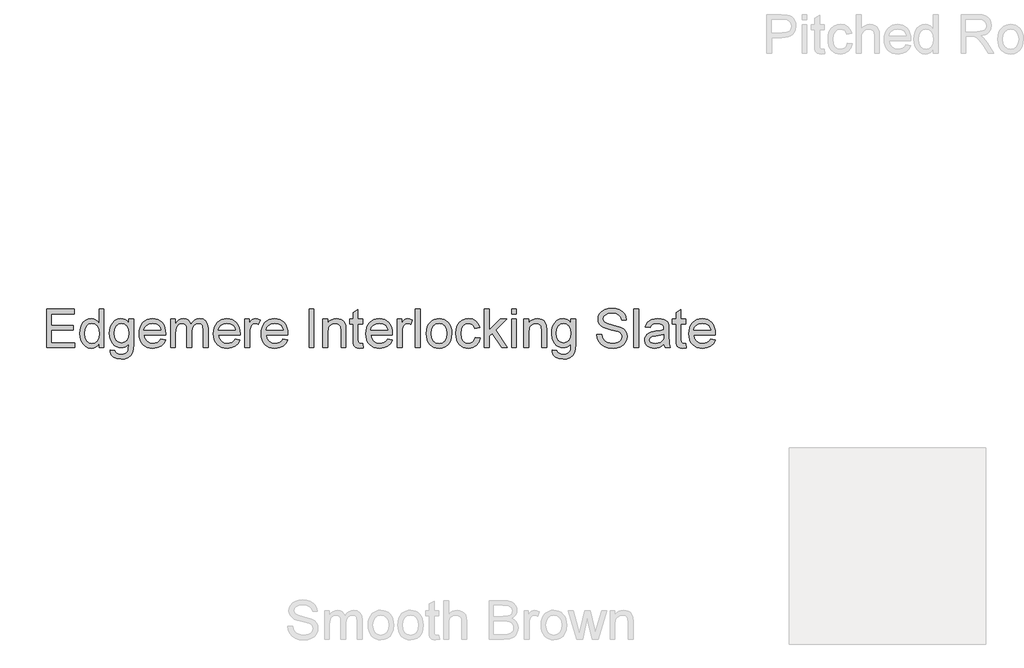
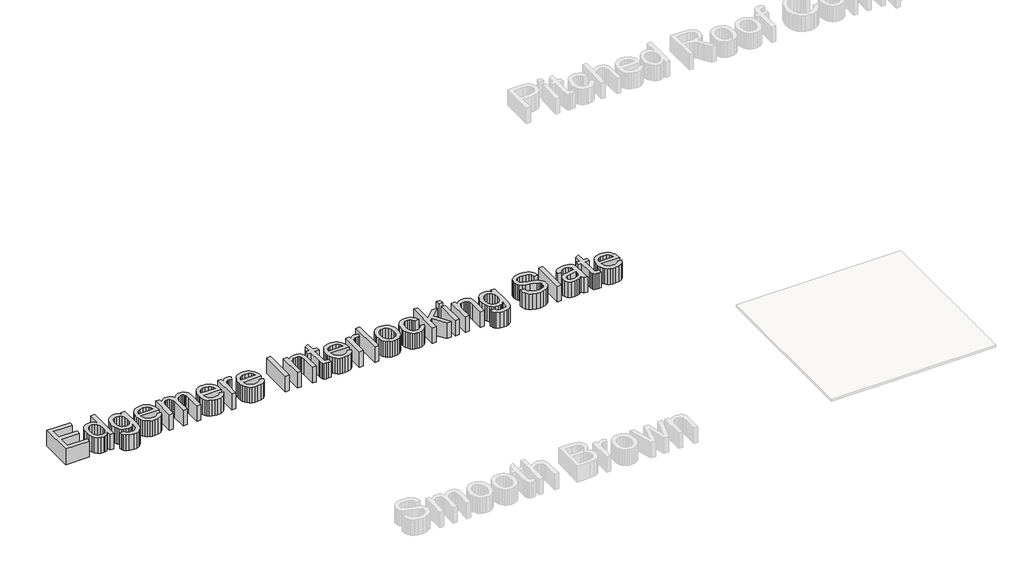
# One storey, part 3 of 8: 1 proxy.
"""IFC4 building model written with IfcOpenShell, lengths in millimetres."""

from ifc_helpers import new_model, si_unit, frame, origin, place, context, project, spatial, polyline, outline, extrude, element, save

model = new_model("IFC4")

# Units and contexts
model_context = context("Model", 3, world=origin())
ifc_project = project(units=[si_unit("LENGTHUNIT", "METRE", prefix="MILLI")], contexts=[model_context])

# Site, building, storey
site = spatial("IfcSite", under=ifc_project)
building = spatial("IfcBuilding", under=site)
storey = spatial("IfcBuildingStorey", under=building, Name="Marley Concrete Interlocking Tiles", Elevation=3000.0)

# Proxy
placement = place(None, origin())
element("IfcBuildingElementProxy", 1, Name="600mm Arial", ObjectType="600mm Arial", at=placement, inside=storey, context=model_context, shape_type="SweptSolid", body=[
    extrude(outline(polyline([(-16393.9287995, 5356.6892067), (-16393.9287995, 5652.0738221), (-16181.6211072, 5652.0738221), (-16181.6211072, 5615.1507451), (-16357.0057226, 5615.1507451), (-16357.0057226, 5527.4584374), (-16190.8518764, 5527.4584374), (-16190.8518764, 5490.5353605), (-16357.0057226, 5490.5353605), (-16357.0057226, 5393.6122836), (-16177.0057226, 5393.6122836), (-16177.0057226, 5356.6892067), (-16393.9287995, 5356.6892067)])), frame((0.0, 0.0, 3000.0), z_axis=(0.0, 0.0, 1.0), x_axis=(1.0, 0.0, 0.0)), (0.0, 0.0, 1.0), 150.0),
    extrude(outline(polyline([(-15992.390338, 5356.6892067), (-15992.390338, 5391.5209374), (-16003.4375135, 5374.2628245), (-16016.8194245, 5361.9356009), (-16032.5360711, 5354.5392668), (-16050.5874534, 5352.0738221), (-16074.4576457, 5355.6435336), (-16096.3086072, 5366.3526682), (-16114.8062034, 5383.4530288), (-16128.6162995, 5406.1964182), (-16137.2160591, 5433.6633653), (-16140.0826457, 5464.934399), (-16137.4414197, 5495.8178124), (-16129.5177418, 5523.7084374), (-16116.3206264, 5547.0197355), (-16097.859088, 5564.1651682), (-16075.530362, 5574.7120432), (-16050.7316841, 5578.2276682), (-16032.6667803, 5575.7126442), (-16016.6932226, 5568.1675721), (-16003.1535591, 5556.6020673), (-15992.390338, 5542.0257451), (-15992.390338, 5652.0738221), (-15955.467261, 5652.0738221), (-15955.467261, 5356.6892067), (-15992.390338, 5356.6892067)]), holes=[polyline([(-16103.1595687, 5465.0786298), (-16098.9949053, 5431.6801923), (-16086.5009149, 5407.9271874), (-16068.3458668, 5393.7294711), (-16047.1980303, 5388.996899), (-16026.0592082, 5393.5131249), (-16008.3638957, 5407.0618028), (-15996.3837274, 5429.8953365), (-15992.390338, 5462.2661298), (-15996.4558428, 5497.6567548), (-16008.6523572, 5522.1940144), (-16026.7983909, 5536.5269471), (-16048.7124534, 5541.3045913), (-16070.076636, 5536.7162499), (-16087.5826457, 5522.9512259), (-16099.265338, 5499.3063942), (-16103.1595687, 5465.0786298)])]), frame((0.0, 0.0, 3000.0), z_axis=(0.0, 0.0, 1.0), x_axis=(1.0, 0.0, 0.0)), (0.0, 0.0, 1.0), 150.0),
    extrude(outline(polyline([(-15909.3134149, 5338.2276682), (-15872.390338, 5333.6122836), (-15868.3158187, 5322.0738221), (-15860.4191841, 5314.1411298), (-15844.8963476, 5307.9752644), (-15824.577838, 5305.9199759), (-15802.9071649, 5308.2456971), (-15786.7893764, 5315.2228605), (-15775.6114918, 5326.4007451), (-15768.7605303, 5341.3286298), (-15766.2364918, 5384.3815144), (-15778.5231505, 5372.2661298), (-15792.234088, 5363.6122836), (-15807.3693043, 5358.4199759), (-15823.9287995, 5356.6892067), (-15844.1729401, 5358.7039302), (-15861.9967082, 5364.7481009), (-15877.4001036, 5374.8217187), (-15890.3831264, 5388.9247836), (-15900.6843584, 5405.8448557), (-15908.0423812, 5424.3694951), (-15913.9287995, 5466.2324759), (-15911.2875735, 5496.043173), (-15903.3638957, 5523.4560336), (-15890.437213, 5546.6862019), (-15872.7869726, 5563.9488221), (-15851.0171409, 5574.6579567), (-15825.7316841, 5578.2276682), (-15808.4645567, 5576.2084374), (-15792.7929822, 5570.1507451), (-15778.7169606, 5560.0545913), (-15766.2364918, 5545.9199759), (-15766.2364918, 5573.6122836), (-15729.3134149, 5573.6122836), (-15729.3134149, 5386.3286298), (-15731.8374534, 5343.0864423), (-15739.4095687, 5314.6098798), (-15752.4534389, 5295.7246634), (-15771.3927418, 5281.2565144), (-15795.8128139, 5272.0618028), (-15825.2989918, 5268.996899), (-15859.6529582, 5273.3148076), (-15886.7052418, 5286.2685336), (-15896.8937935, 5295.9928425), (-15904.0580062, 5307.8941346), (-15908.19788, 5321.9724098), (-15909.3134149, 5338.2276682)]), holes=[polyline([(-15877.0057226, 5468.7565144), (-15873.0664197, 5434.8893269), (-15861.248511, 5411.6050721), (-15843.4810832, 5398.1104807), (-15821.6932226, 5393.6122836), (-15800.0676216, 5398.0834374), (-15782.2100495, 5411.496899), (-15770.2298812, 5434.4836778), (-15766.2364918, 5467.6747836), (-15770.3470687, 5499.6849999), (-15782.6787995, 5522.7348798), (-15800.7977899, 5536.6621634), (-15822.2701457, 5541.3045913), (-15843.3548812, 5536.7342788), (-15861.0321649, 5523.0233413), (-15873.0123332, 5500.3160096), (-15877.0057226, 5468.7565144)])]), frame((0.0, 0.0, 3000.0), z_axis=(0.0, 0.0, 1.0), x_axis=(1.0, 0.0, 0.0)), (0.0, 0.0, 1.0), 150.0),
    extrude(outline(polyline([(-15522.0537995, 5421.3045913), (-15485.8518764, 5416.6892067), (-15498.8957466, 5389.4115624), (-15519.7100495, 5369.0209374), (-15547.8260351, 5356.3106009), (-15582.7749534, 5352.0738221), (-15605.6851096, 5353.9014963), (-15626.0982707, 5359.3845192), (-15644.0144365, 5368.5228906), (-15659.4336072, 5381.3166105), (-15671.8329461, 5397.4096093), (-15680.6896168, 5416.4458173), (-15686.0036192, 5438.4252343), (-15687.7749534, 5463.3478605), (-15685.9855904, 5489.1155889), (-15680.6175014, 5511.8274278), (-15671.6706865, 5531.4833773), (-15659.1451457, 5548.0834374), (-15643.7665399, 5561.2715384), (-15626.2605303, 5570.6916105), (-15606.6271168, 5576.3436538), (-15584.8662995, 5578.2276682), (-15563.8063536, 5576.348161), (-15544.7611312, 5570.7096394), (-15527.7306324, 5561.3121033), (-15512.7148572, 5548.1555528), (-15500.4574954, 5531.5915504), (-15491.702237, 5511.9716586), (-15486.449082, 5489.2958773), (-15484.6980303, 5463.5642067), (-15484.9143764, 5453.6122836), (-15650.8518764, 5453.6122836), (-15644.4606505, 5425.9740624), (-15629.6138957, 5405.6555528), (-15608.186612, 5393.1615624), (-15582.0537995, 5388.996899), (-15562.4023572, 5390.9259855), (-15545.8518764, 5396.7132451), (-15532.4023572, 5406.7192548), (-15522.0537995, 5421.3045913)]), holes=[polyline([(-15650.8518764, 5490.5353605), (-15521.6211072, 5490.5353605), (-15526.6150976, 5510.0425721), (-15536.404761, 5523.996899), (-15557.9312034, 5536.9776682), (-15585.0105303, 5541.3045913), (-15609.8993524, 5537.8520673), (-15630.4792803, 5527.4944951), (-15644.7851697, 5511.3496634), (-15650.8518764, 5490.5353605)])]), frame((0.0, 0.0, 3000.0), z_axis=(0.0, 0.0, 1.0), x_axis=(1.0, 0.0, 0.0)), (0.0, 0.0, 1.0), 150.0),
    extrude(outline(polyline([(-15447.7749534, 5356.6892067), (-15447.7749534, 5573.6122836), (-15410.8518764, 5573.6122836), (-15410.8518764, 5537.9151682), (-15399.7461072, 5554.3124038), (-15385.467261, 5567.1579567), (-15368.5021168, 5575.4602403), (-15349.3374534, 5578.2276682), (-15328.8025976, 5575.4061538), (-15312.342261, 5566.9416105), (-15300.046588, 5553.3929326), (-15292.0057226, 5535.3190144), (-15278.5471889, 5554.0915504), (-15263.1956264, 5567.5005048), (-15245.9510351, 5575.5458773), (-15226.8134149, 5578.2276682), (-15199.0580062, 5573.7655288), (-15178.5321649, 5560.3791105), (-15165.8488716, 5537.7078365), (-15161.6211072, 5505.3911298), (-15161.6211072, 5356.6892067), (-15198.5441841, 5356.6892067), (-15198.5441841, 5489.5257451), (-15201.9696649, 5520.3550721), (-15206.7833668, 5528.855673), (-15214.373511, 5535.5353605), (-15224.1361312, 5539.8622836), (-15235.467261, 5541.3045913), (-15255.4702659, 5537.6086778), (-15271.7773572, 5526.5209374), (-15282.6217082, 5507.2841586), (-15286.2364918, 5479.1411298), (-15286.2364918, 5356.6892067), (-15323.1595687, 5356.6892067), (-15323.1595687, 5493.6363221), (-15325.295987, 5514.5137259), (-15331.7052418, 5529.4055528), (-15342.9822851, 5538.3298317), (-15359.7220687, 5541.3045913), (-15373.9468284, 5539.3214182), (-15387.0537995, 5533.371899), (-15397.8711072, 5523.6002644), (-15405.2268764, 5510.1507451), (-15409.4456264, 5491.4908894), (-15410.8518764, 5466.0882451), (-15410.8518764, 5356.6892067), (-15447.7749534, 5356.6892067)])), frame((0.0, 0.0, 3000.0), z_axis=(0.0, 0.0, 1.0), x_axis=(1.0, 0.0, 0.0)), (0.0, 0.0, 1.0), 150.0),
    extrude(outline(polyline([(-14954.3614918, 5421.3045913), (-14918.1595687, 5416.6892067), (-14931.2034389, 5389.4115624), (-14952.0177418, 5369.0209374), (-14980.1337274, 5356.3106009), (-15015.0826457, 5352.0738221), (-15037.9928019, 5353.9014963), (-15058.405963, 5359.3845192), (-15076.3221288, 5368.5228906), (-15091.7412995, 5381.3166105), (-15104.1406385, 5397.4096093), (-15112.9973091, 5416.4458173), (-15118.3113115, 5438.4252343), (-15120.0826457, 5463.3478605), (-15118.2932827, 5489.1155889), (-15112.9251937, 5511.8274278), (-15103.9783788, 5531.4833773), (-15091.452838, 5548.0834374), (-15076.0742322, 5561.2715384), (-15058.5682226, 5570.6916105), (-15038.9348091, 5576.3436538), (-15017.1739918, 5578.2276682), (-14996.1140459, 5576.348161), (-14977.0688235, 5570.7096394), (-14960.0383247, 5561.3121033), (-14945.0225495, 5548.1555528), (-14932.7651877, 5531.5915504), (-14924.0099293, 5511.9716586), (-14918.7567743, 5489.2958773), (-14917.0057226, 5463.5642067), (-14917.2220687, 5453.6122836), (-15083.1595687, 5453.6122836), (-15076.7683428, 5425.9740624), (-15061.921588, 5405.6555528), (-15040.4943043, 5393.1615624), (-15014.3614918, 5388.996899), (-14994.7100495, 5390.9259855), (-14978.1595687, 5396.7132451), (-14964.7100495, 5406.7192548), (-14954.3614918, 5421.3045913)]), holes=[polyline([(-15083.1595687, 5490.5353605), (-14953.9287995, 5490.5353605), (-14958.9227899, 5510.0425721), (-14968.7124534, 5523.996899), (-14990.2388957, 5536.9776682), (-15017.3182226, 5541.3045913), (-15042.2070447, 5537.8520673), (-15062.7869726, 5527.4944951), (-15077.092862, 5511.3496634), (-15083.1595687, 5490.5353605)])]), frame((0.0, 0.0, 3000.0), z_axis=(0.0, 0.0, 1.0), x_axis=(1.0, 0.0, 0.0)), (0.0, 0.0, 1.0), 150.0),
    extrude(outline(polyline([(-14880.0826457, 5356.6892067), (-14880.0826457, 5573.6122836), (-14847.7749534, 5573.6122836), (-14847.7749534, 5541.5209374), (-14835.8398572, 5560.1267067), (-14824.842261, 5571.0882451), (-14813.8086072, 5576.4428124), (-14801.765338, 5578.2276682), (-14783.3759149, 5575.3791105), (-14764.6980303, 5566.8334374), (-14777.029761, 5533.7324759), (-14790.0105303, 5539.4115624), (-14802.9912995, 5541.3045913), (-14814.0159389, 5539.4836778), (-14823.8687034, 5534.0209374), (-14831.8284389, 5525.3310336), (-14837.1739918, 5513.8286298), (-14841.6631745, 5493.2036298), (-14843.1595687, 5470.7036298), (-14843.1595687, 5356.6892067), (-14880.0826457, 5356.6892067)])), frame((0.0, 0.0, 3000.0), z_axis=(0.0, 0.0, 1.0), x_axis=(1.0, 0.0, 0.0)), (0.0, 0.0, 1.0), 150.0),
    extrude(outline(polyline([(-14589.7461072, 5421.3045913), (-14553.5441841, 5416.6892067), (-14566.5880543, 5389.4115624), (-14587.4023572, 5369.0209374), (-14615.5183428, 5356.3106009), (-14650.467261, 5352.0738221), (-14673.3774173, 5353.9014963), (-14693.7905784, 5359.3845192), (-14711.7067442, 5368.5228906), (-14727.1259149, 5381.3166105), (-14739.5252538, 5397.4096093), (-14748.3819245, 5416.4458173), (-14753.6959269, 5438.4252343), (-14755.467261, 5463.3478605), (-14753.6778981, 5489.1155889), (-14748.3098091, 5511.8274278), (-14739.3629942, 5531.4833773), (-14726.8374534, 5548.0834374), (-14711.4588476, 5561.2715384), (-14693.952838, 5570.6916105), (-14674.3194245, 5576.3436538), (-14652.5586072, 5578.2276682), (-14631.4986613, 5576.348161), (-14612.4534389, 5570.7096394), (-14595.4229401, 5561.3121033), (-14580.4071649, 5548.1555528), (-14568.1498031, 5531.5915504), (-14559.3945447, 5511.9716586), (-14554.1413897, 5489.2958773), (-14552.390338, 5463.5642067), (-14552.6066841, 5453.6122836), (-14718.5441841, 5453.6122836), (-14712.1529582, 5425.9740624), (-14697.3062034, 5405.6555528), (-14675.8789197, 5393.1615624), (-14649.7461072, 5388.996899), (-14630.0946649, 5390.9259855), (-14613.5441841, 5396.7132451), (-14600.0946649, 5406.7192548), (-14589.7461072, 5421.3045913)]), holes=[polyline([(-14718.5441841, 5490.5353605), (-14589.3134149, 5490.5353605), (-14594.3074053, 5510.0425721), (-14604.0970687, 5523.996899), (-14625.623511, 5536.9776682), (-14652.702838, 5541.3045913), (-14677.5916601, 5537.8520673), (-14698.171588, 5527.4944951), (-14712.4774774, 5511.3496634), (-14718.5441841, 5490.5353605)])]), frame((0.0, 0.0, 3000.0), z_axis=(0.0, 0.0, 1.0), x_axis=(1.0, 0.0, 0.0)), (0.0, 0.0, 1.0), 150.0),
    extrude(outline(polyline([(-14390.8518764, 5356.6892067), (-14390.8518764, 5652.0738221), (-14353.9287995, 5652.0738221), (-14353.9287995, 5356.6892067), (-14390.8518764, 5356.6892067)])), frame((0.0, 0.0, 3000.0), z_axis=(0.0, 0.0, 1.0), x_axis=(1.0, 0.0, 0.0)), (0.0, 0.0, 1.0), 150.0),
    extrude(outline(polyline([(-14284.6980303, 5356.6892067), (-14284.6980303, 5573.6122836), (-14247.7749534, 5573.6122836), (-14247.7749534, 5543.3238221), (-14234.9474293, 5558.5942548), (-14219.5417803, 5569.5017067), (-14201.5580062, 5576.0461778), (-14180.9961072, 5578.2276682), (-14162.795987, 5576.4698557), (-14146.1283187, 5571.1964182), (-14132.2280784, 5563.0654086), (-14122.3302418, 5552.7348798), (-14111.2605303, 5525.5834374), (-14109.3134149, 5489.8863221), (-14109.3134149, 5356.6892067), (-14146.2364918, 5356.6892067), (-14146.2364918, 5484.9103605), (-14150.4912995, 5517.5786298), (-14156.3777178, 5527.3051923), (-14165.5273572, 5534.8502644), (-14177.2551216, 5539.6910096), (-14190.8759149, 5541.3045913), (-14212.5015159, 5537.6807932), (-14230.936011, 5526.809399), (-14238.3030483, 5517.9346995), (-14243.5652178, 5505.8057932), (-14247.7749534, 5471.7853605), (-14247.7749534, 5356.6892067), (-14284.6980303, 5356.6892067)])), frame((0.0, 0.0, 3000.0), z_axis=(0.0, 0.0, 1.0), x_axis=(1.0, 0.0, 0.0)), (0.0, 0.0, 1.0), 150.0),
    extrude(outline(polyline([(-13980.0826457, 5387.4824759), (-13975.467261, 5355.6074759), (-14003.0874534, 5352.0738221), (-14020.8098091, 5353.606274), (-14034.0249534, 5358.2036298), (-14043.3638957, 5365.2889663), (-14049.4576457, 5374.2853605), (-14052.811011, 5389.7360817), (-14053.9287995, 5416.184399), (-14053.9287995, 5536.6892067), (-14081.6211072, 5536.6892067), (-14081.6211072, 5573.6122836), (-14053.9287995, 5573.6122836), (-14053.9287995, 5626.3286298), (-14017.0057226, 5648.0353605), (-14017.0057226, 5573.6122836), (-13980.0826457, 5573.6122836), (-13980.0826457, 5536.6892067), (-14017.0057226, 5536.6892067), (-14017.0057226, 5417.2661298), (-14015.0586072, 5398.2276682), (-14008.748511, 5391.4848798), (-13996.1643764, 5388.996899), (-13980.0826457, 5387.4824759)])), frame((0.0, 0.0, 3000.0), z_axis=(0.0, 0.0, 1.0), x_axis=(1.0, 0.0, 0.0)), (0.0, 0.0, 1.0), 150.0),
    extrude(outline(polyline([(-13791.2845687, 5421.3045913), (-13755.0826457, 5416.6892067), (-13768.1265159, 5389.4115624), (-13788.9408187, 5369.0209374), (-13817.0568043, 5356.3106009), (-13852.0057226, 5352.0738221), (-13874.9158788, 5353.9014963), (-13895.3290399, 5359.3845192), (-13913.2452058, 5368.5228906), (-13928.6643764, 5381.3166105), (-13941.0637154, 5397.4096093), (-13949.920386, 5416.4458173), (-13955.2343885, 5438.4252343), (-13957.0057226, 5463.3478605), (-13955.2163596, 5489.1155889), (-13949.8482707, 5511.8274278), (-13940.9014558, 5531.4833773), (-13928.3759149, 5548.0834374), (-13912.9973091, 5561.2715384), (-13895.4912995, 5570.6916105), (-13875.857886, 5576.3436538), (-13854.0970687, 5578.2276682), (-13833.0371228, 5576.348161), (-13813.9919005, 5570.7096394), (-13796.9614017, 5561.3121033), (-13781.9456264, 5548.1555528), (-13769.6882647, 5531.5915504), (-13760.9330062, 5511.9716586), (-13755.6798512, 5489.2958773), (-13753.9287995, 5463.5642067), (-13754.1451457, 5453.6122836), (-13920.0826457, 5453.6122836), (-13913.6914197, 5425.9740624), (-13898.8446649, 5405.6555528), (-13877.4173812, 5393.1615624), (-13851.2845687, 5388.996899), (-13831.6331264, 5390.9259855), (-13815.0826457, 5396.7132451), (-13801.6331264, 5406.7192548), (-13791.2845687, 5421.3045913)]), holes=[polyline([(-13920.0826457, 5490.5353605), (-13790.8518764, 5490.5353605), (-13795.8458668, 5510.0425721), (-13805.6355303, 5523.996899), (-13827.1619726, 5536.9776682), (-13854.2412995, 5541.3045913), (-13879.1301216, 5537.8520673), (-13899.7100495, 5527.4944951), (-13914.0159389, 5511.3496634), (-13920.0826457, 5490.5353605)])]), frame((0.0, 0.0, 3000.0), z_axis=(0.0, 0.0, 1.0), x_axis=(1.0, 0.0, 0.0)), (0.0, 0.0, 1.0), 150.0),
    extrude(outline(polyline([(-13717.0057226, 5356.6892067), (-13717.0057226, 5573.6122836), (-13684.6980303, 5573.6122836), (-13684.6980303, 5541.5209374), (-13672.7629341, 5560.1267067), (-13661.765338, 5571.0882451), (-13650.7316841, 5576.4428124), (-13638.6884149, 5578.2276682), (-13620.2989918, 5575.3791105), (-13601.6211072, 5566.8334374), (-13613.952838, 5533.7324759), (-13626.9336072, 5539.4115624), (-13639.9143764, 5541.3045913), (-13650.9390159, 5539.4836778), (-13660.7917803, 5534.0209374), (-13668.7515159, 5525.3310336), (-13674.0970687, 5513.8286298), (-13678.5862514, 5493.2036298), (-13680.0826457, 5470.7036298), (-13680.0826457, 5356.6892067), (-13717.0057226, 5356.6892067)])), frame((0.0, 0.0, 3000.0), z_axis=(0.0, 0.0, 1.0), x_axis=(1.0, 0.0, 0.0)), (0.0, 0.0, 1.0), 150.0),
    extrude(outline(polyline([(-13578.5441841, 5356.6892067), (-13578.5441841, 5652.0738221), (-13541.6211072, 5652.0738221), (-13541.6211072, 5356.6892067), (-13578.5441841, 5356.6892067)])), frame((0.0, 0.0, 3000.0), z_axis=(0.0, 0.0, 1.0), x_axis=(1.0, 0.0, 0.0)), (0.0, 0.0, 1.0), 150.0),
    extrude(outline(polyline([(-13495.467261, 5465.1507451), (-13493.4705663, 5493.2441947), (-13487.4804822, 5517.4524278), (-13477.4970086, 5537.7754447), (-13463.5201457, 5554.2132451), (-13449.4486312, 5564.7195552), (-13433.9167803, 5572.2240624), (-13416.9245928, 5576.7267668), (-13398.4720687, 5578.2276682), (-13378.1017262, 5576.3999939), (-13359.6830062, 5570.9169711), (-13343.2159089, 5561.7785997), (-13328.7004341, 5548.9848798), (-13316.8532286, 5532.9685036), (-13308.3909389, 5514.1621634), (-13303.3135651, 5492.5658593), (-13301.6211072, 5468.1795913), (-13304.6138957, 5430.8779086), (-13313.592261, 5402.4824759), (-13328.2947851, 5381.2174519), (-13348.4600495, 5365.3069951), (-13372.4113716, 5355.3821153), (-13398.4720687, 5352.0738221), (-13419.1398872, 5353.8947355), (-13437.7298812, 5359.3574759), (-13454.2420507, 5368.4620432), (-13468.6763957, 5381.2084374), (-13480.3973993, 5397.3803124), (-13488.7695447, 5416.7613221), (-13493.792832, 5439.3514663), (-13495.467261, 5465.1507451)]), holes=[polyline([(-13458.5441841, 5465.2228605), (-13454.2713476, 5431.8063942), (-13441.452838, 5407.9993028), (-13422.1619726, 5393.7474999), (-13398.4720687, 5388.996899), (-13374.890338, 5393.7745432), (-13355.6355303, 5408.1074759), (-13342.8170207, 5432.2300721), (-13338.5441841, 5466.3767067), (-13342.8440639, 5498.8196153), (-13355.7437034, 5522.3021874), (-13375.0255543, 5536.5539903), (-13398.4720687, 5541.3045913), (-13422.1619726, 5536.5720192), (-13441.452838, 5522.3743028), (-13454.2713476, 5498.621298), (-13458.5441841, 5465.2228605)])]), frame((0.0, 0.0, 3000.0), z_axis=(0.0, 0.0, 1.0), x_axis=(1.0, 0.0, 0.0)), (0.0, 0.0, 1.0), 150.0),
    extrude(outline(polyline([(-13121.6211072, 5435.1507451), (-13084.6980303, 5430.5353605), (-13094.9925014, 5397.6958173), (-13114.3374534, 5372.8791105), (-13140.9119726, 5357.2751442), (-13172.8951457, 5352.0738221), (-13193.6035291, 5353.8879747), (-13212.170987, 5359.3304326), (-13228.5975195, 5368.4011959), (-13242.8831264, 5381.1002644), (-13254.4463776, 5397.188756), (-13262.7058428, 5416.4277884), (-13267.6615219, 5438.8173617), (-13269.3134149, 5464.3574759), (-13266.4919005, 5497.215048), (-13258.0273572, 5525.6916105), (-13243.7845687, 5548.6874038), (-13223.6283187, 5565.1026682), (-13199.514737, 5574.9464182), (-13173.3999534, 5578.2276682), (-13142.2010351, 5573.7204567), (-13117.2581264, 5560.1988221), (-13099.3644966, 5538.3839182), (-13089.3134149, 5508.996899), (-13126.2364918, 5504.3815144), (-13132.9342082, 5520.4902884), (-13143.3638957, 5532.0377644), (-13156.9486312, 5538.9878846), (-13173.1114918, 5541.3045913), (-13196.9726697, 5536.7432932), (-13215.9119726, 5523.059399), (-13228.2707466, 5499.5137259), (-13232.390338, 5465.3670913), (-13228.3608909, 5430.7607211), (-13216.2725495, 5407.1339182), (-13197.6757947, 5393.5311538), (-13174.1211072, 5388.996899), (-13155.0015159, 5391.8274278), (-13139.3254341, 5400.3190144), (-13127.9221889, 5414.6880048), (-13121.6211072, 5435.1507451)])), frame((0.0, 0.0, 3000.0), z_axis=(0.0, 0.0, 1.0), x_axis=(1.0, 0.0, 0.0)), (0.0, 0.0, 1.0), 150.0),
    extrude(outline(polyline([(-13052.390338, 5356.6892067), (-13052.390338, 5652.0738221), (-13015.467261, 5652.0738221), (-13015.467261, 5493.3478605), (-12932.6787995, 5573.6122836), (-12881.6211072, 5573.6122836), (-12965.4191841, 5492.3382451), (-12877.0057226, 5356.6892067), (-12920.1307226, 5356.6892067), (-12991.8855303, 5466.6651682), (-13015.467261, 5443.8045913), (-13015.467261, 5356.6892067), (-13052.390338, 5356.6892067)])), frame((0.0, 0.0, 3000.0), z_axis=(0.0, 0.0, 1.0), x_axis=(1.0, 0.0, 0.0)), (0.0, 0.0, 1.0), 150.0),
    extrude(outline(polyline([(-12844.6980303, 5356.6892067), (-12844.6980303, 5573.6122836), (-12807.7749534, 5573.6122836), (-12807.7749534, 5356.6892067), (-12844.6980303, 5356.6892067)])), frame((0.0, 0.0, 3000.0), z_axis=(0.0, 0.0, 1.0), x_axis=(1.0, 0.0, 0.0)), (0.0, 0.0, 1.0), 150.0),
    extrude(outline(polyline([(-12844.6980303, 5615.1507451), (-12844.6980303, 5652.0738221), (-12807.7749534, 5652.0738221), (-12807.7749534, 5615.1507451), (-12844.6980303, 5615.1507451)])), frame((0.0, 0.0, 3000.0), z_axis=(0.0, 0.0, 1.0), x_axis=(1.0, 0.0, 0.0)), (0.0, 0.0, 1.0), 150.0),
    extrude(outline(polyline([(-12752.390338, 5356.6892067), (-12752.390338, 5573.6122836), (-12715.467261, 5573.6122836), (-12715.467261, 5543.3238221), (-12702.639737, 5558.5942548), (-12687.234088, 5569.5017067), (-12669.2503139, 5576.0461778), (-12648.6884149, 5578.2276682), (-12630.4882947, 5576.4698557), (-12613.8206264, 5571.1964182), (-12599.920386, 5563.0654086), (-12590.0225495, 5552.7348798), (-12578.952838, 5525.5834374), (-12577.0057226, 5489.8863221), (-12577.0057226, 5356.6892067), (-12613.9287995, 5356.6892067), (-12613.9287995, 5484.9103605), (-12618.1836072, 5517.5786298), (-12624.0700255, 5527.3051923), (-12633.2196649, 5534.8502644), (-12644.9474293, 5539.6910096), (-12658.5682226, 5541.3045913), (-12680.1938235, 5537.6807932), (-12698.6283187, 5526.809399), (-12705.995356, 5517.9346995), (-12711.2575255, 5505.8057932), (-12715.467261, 5471.7853605), (-12715.467261, 5356.6892067), (-12752.390338, 5356.6892067)])), frame((0.0, 0.0, 3000.0), z_axis=(0.0, 0.0, 1.0), x_axis=(1.0, 0.0, 0.0)), (0.0, 0.0, 1.0), 150.0),
    extrude(outline(polyline([(-12535.467261, 5338.2276682), (-12498.5441841, 5333.6122836), (-12494.4696649, 5322.0738221), (-12486.5730303, 5314.1411298), (-12471.0501937, 5307.9752644), (-12450.7316841, 5305.9199759), (-12429.061011, 5308.2456971), (-12412.9432226, 5315.2228605), (-12401.765338, 5326.4007451), (-12394.9143764, 5341.3286298), (-12392.390338, 5384.3815144), (-12404.6769966, 5372.2661298), (-12418.3879341, 5363.6122836), (-12433.5231505, 5358.4199759), (-12450.0826457, 5356.6892067), (-12470.3267863, 5358.7039302), (-12488.1505543, 5364.7481009), (-12503.5539497, 5374.8217187), (-12516.5369726, 5388.9247836), (-12526.8382046, 5405.8448557), (-12534.1962274, 5424.3694951), (-12540.0826457, 5466.2324759), (-12537.4414197, 5496.043173), (-12529.5177418, 5523.4560336), (-12516.5910591, 5546.6862019), (-12498.9408187, 5563.9488221), (-12477.170987, 5574.6579567), (-12451.8855303, 5578.2276682), (-12434.6184029, 5576.2084374), (-12418.9468284, 5570.1507451), (-12404.8708067, 5560.0545913), (-12392.390338, 5545.9199759), (-12392.390338, 5573.6122836), (-12355.467261, 5573.6122836), (-12355.467261, 5386.3286298), (-12357.9912995, 5343.0864423), (-12365.5634149, 5314.6098798), (-12378.6072851, 5295.7246634), (-12397.546588, 5281.2565144), (-12421.9666601, 5272.0618028), (-12451.452838, 5268.996899), (-12485.8068043, 5273.3148076), (-12512.859088, 5286.2685336), (-12523.0476397, 5295.9928425), (-12530.2118524, 5307.8941346), (-12534.3517262, 5321.9724098), (-12535.467261, 5338.2276682)]), holes=[polyline([(-12503.1595687, 5468.7565144), (-12499.2202659, 5434.8893269), (-12487.4023572, 5411.6050721), (-12469.6349293, 5398.1104807), (-12447.8470687, 5393.6122836), (-12426.2214678, 5398.0834374), (-12408.3638957, 5411.496899), (-12396.3837274, 5434.4836778), (-12392.390338, 5467.6747836), (-12396.5009149, 5499.6849999), (-12408.8326457, 5522.7348798), (-12426.951636, 5536.6621634), (-12448.4239918, 5541.3045913), (-12469.5087274, 5536.7342788), (-12487.186011, 5523.0233413), (-12499.1661793, 5500.3160096), (-12503.1595687, 5468.7565144)])]), frame((0.0, 0.0, 3000.0), z_axis=(0.0, 0.0, 1.0), x_axis=(1.0, 0.0, 0.0)), (0.0, 0.0, 1.0), 150.0),
    extrude(outline(polyline([(-12193.9287995, 5458.2276682), (-12157.0057226, 5458.2276682), (-12152.7689437, 5437.7378846), (-12145.1066841, 5421.2685336), (-12133.1535591, 5408.1976201), (-12116.0441841, 5397.903149), (-12095.1307226, 5391.2234615), (-12071.765338, 5388.996899), (-12051.1944245, 5390.6825961), (-12033.1836072, 5395.7396874), (-12018.5892562, 5403.7444951), (-12008.2677418, 5414.2733413), (-12002.1289197, 5426.3616826), (-12000.0826457, 5439.0449759), (-12001.6150976, 5451.4037499), (-12006.2124534, 5462.0858413), (-12015.5513957, 5471.199423), (-12031.3086072, 5478.8526682), (-12085.0706264, 5492.9512259), (-12120.3620928, 5502.2811538), (-12142.9432226, 5511.1603605), (-12161.3236312, 5523.5822355), (-12174.3494726, 5538.6363221), (-12182.1108909, 5555.9981009), (-12184.6980303, 5575.3430528), (-12181.4979101, 5596.9686538), (-12171.8975495, 5617.1339182), (-12156.1493524, 5634.2252644), (-12134.5057226, 5646.6291105), (-12108.5261553, 5654.1741826), (-12079.7701457, 5656.6892067), (-12048.6162995, 5654.0569951), (-12021.3566841, 5646.1603605), (-11998.9648572, 5633.1615624), (-11982.4143764, 5615.2228605), (-11971.9396168, 5593.4620432), (-11967.7749534, 5568.996899), (-12004.6980303, 5568.996899), (-12011.4768764, 5591.028149), (-12025.6114918, 5606.9295913), (-12047.6968284, 5616.5569951), (-12078.327838, 5619.7661298), (-12109.6800014, 5616.5930528), (-12131.1884149, 5607.0738221), (-12143.6283187, 5593.0654086), (-12147.7749534, 5576.4247836), (-12144.8362514, 5562.2360817), (-12136.0201457, 5550.8238221), (-12115.1787995, 5540.6194951), (-12075.7316841, 5530.1988221), (-12010.3951457, 5511.6651682), (-11989.3464678, 5498.2697355), (-11974.6619726, 5481.7372836), (-11966.0351697, 5462.2481009), (-11963.1595687, 5439.9824759), (-11966.467862, 5417.2210576), (-11976.3927418, 5395.8118028), (-11992.5285591, 5377.3863221), (-12014.4696649, 5363.5762259), (-12040.8548812, 5354.949423), (-12070.3230303, 5352.0738221), (-12106.4979101, 5355.1747836), (-12136.2725495, 5364.4776682), (-12159.9894966, 5380.0185336), (-12177.9912995, 5401.8334374), (-12189.5477899, 5428.4079567), (-12193.9287995, 5458.2276682)])), frame((0.0, 0.0, 3000.0), z_axis=(0.0, 0.0, 1.0), x_axis=(1.0, 0.0, 0.0)), (0.0, 0.0, 1.0), 150.0),
    extrude(outline(polyline([(-11912.390338, 5356.6892067), (-11912.390338, 5652.0738221), (-11875.467261, 5652.0738221), (-11875.467261, 5356.6892067), (-11912.390338, 5356.6892067)])), frame((0.0, 0.0, 3000.0), z_axis=(0.0, 0.0, 1.0), x_axis=(1.0, 0.0, 0.0)), (0.0, 0.0, 1.0), 150.0),
    extrude(outline(polyline([(-11681.6211072, 5384.3815144), (-11699.2623332, 5369.2553124), (-11717.4263957, 5359.3574759), (-11736.5279582, 5353.8947355), (-11756.9816841, 5352.0738221), (-11787.8380543, 5356.4548317), (-11810.5994726, 5369.5978605), (-11824.6349293, 5389.5557932), (-11829.3134149, 5414.3815144), (-11827.546588, 5429.6880048), (-11822.2461072, 5443.5882451), (-11814.0700255, 5455.4872836), (-11803.6763957, 5464.7901682), (-11777.8230303, 5476.9055528), (-11745.8759149, 5482.4584374), (-11708.123511, 5488.2997836), (-11681.8374534, 5495.1507451), (-11681.6211072, 5503.371899), (-11684.1631745, 5519.8502644), (-11691.7893764, 5530.6315144), (-11708.8446649, 5538.6363221), (-11732.6066841, 5541.3045913), (-11754.6018764, 5539.5287499), (-11769.9624534, 5534.2012259), (-11780.437213, 5524.3484615), (-11787.7749534, 5508.996899), (-11824.6980303, 5513.6122836), (-11818.2887755, 5533.8045913), (-11808.7244726, 5549.6699759), (-11795.1126937, 5561.8033894), (-11776.561011, 5570.7997836), (-11753.8717082, 5576.3706971), (-11727.8470687, 5578.2276682), (-11702.8861312, 5576.5870432), (-11683.0994726, 5571.6651682), (-11668.1806024, 5564.2643269), (-11657.8230303, 5555.1868028), (-11650.9540399, 5543.9638461), (-11646.5009149, 5530.1267067), (-11644.6980303, 5497.8190144), (-11644.6980303, 5451.8815144), (-11642.8230303, 5387.7348798), (-11635.467261, 5356.6892067), (-11672.390338, 5356.6892067), (-11681.6211072, 5384.3815144)]), holes=[polyline([(-11681.6211072, 5458.2276682), (-11741.1884149, 5446.9055528), (-11772.9552418, 5440.9199759), (-11787.342261, 5431.184399), (-11792.390338, 5416.9776682), (-11789.6409389, 5405.9981009), (-11781.3927418, 5397.0017067), (-11767.8260351, 5390.9981009), (-11749.1211072, 5388.996899), (-11729.2893764, 5391.2054326), (-11711.765338, 5397.8310336), (-11697.5586072, 5407.5936538), (-11687.6787995, 5419.2132451), (-11683.2977899, 5431.184399), (-11681.8374534, 5447.7709374), (-11681.6211072, 5458.2276682)])]), frame((0.0, 0.0, 3000.0), z_axis=(0.0, 0.0, 1.0), x_axis=(1.0, 0.0, 0.0)), (0.0, 0.0, 1.0), 150.0),
    extrude(outline(polyline([(-11515.467261, 5387.4824759), (-11510.8518764, 5355.6074759), (-11538.4720687, 5352.0738221), (-11556.1944245, 5353.606274), (-11569.4095687, 5358.2036298), (-11578.748511, 5365.2889663), (-11584.842261, 5374.2853605), (-11588.1956264, 5389.7360817), (-11589.3134149, 5416.184399), (-11589.3134149, 5536.6892067), (-11617.0057226, 5536.6892067), (-11617.0057226, 5573.6122836), (-11589.3134149, 5573.6122836), (-11589.3134149, 5626.3286298), (-11552.390338, 5648.0353605), (-11552.390338, 5573.6122836), (-11515.467261, 5573.6122836), (-11515.467261, 5536.6892067), (-11552.390338, 5536.6892067), (-11552.390338, 5417.2661298), (-11550.4432226, 5398.2276682), (-11544.1331264, 5391.4848798), (-11531.5489918, 5388.996899), (-11515.467261, 5387.4824759)])), frame((0.0, 0.0, 3000.0), z_axis=(0.0, 0.0, 1.0), x_axis=(1.0, 0.0, 0.0)), (0.0, 0.0, 1.0), 150.0),
    extrude(outline(polyline([(-11326.6691841, 5421.3045913), (-11290.467261, 5416.6892067), (-11303.5111312, 5389.4115624), (-11324.3254341, 5369.0209374), (-11352.4414197, 5356.3106009), (-11387.390338, 5352.0738221), (-11410.3004942, 5353.9014963), (-11430.7136553, 5359.3845192), (-11448.6298211, 5368.5228906), (-11464.0489918, 5381.3166105), (-11476.4483308, 5397.4096093), (-11485.3050014, 5416.4458173), (-11490.6190038, 5438.4252343), (-11492.390338, 5463.3478605), (-11490.600975, 5489.1155889), (-11485.232886, 5511.8274278), (-11476.2860711, 5531.4833773), (-11463.7605303, 5548.0834374), (-11448.3819245, 5561.2715384), (-11430.8759149, 5570.6916105), (-11411.2425014, 5576.3436538), (-11389.4816841, 5578.2276682), (-11368.4217382, 5576.348161), (-11349.3765159, 5570.7096394), (-11332.3460171, 5561.3121033), (-11317.3302418, 5548.1555528), (-11305.07288, 5531.5915504), (-11296.3176216, 5511.9716586), (-11291.0644666, 5489.2958773), (-11289.3134149, 5463.5642067), (-11289.529761, 5453.6122836), (-11455.467261, 5453.6122836), (-11449.0760351, 5425.9740624), (-11434.2292803, 5405.6555528), (-11412.8019966, 5393.1615624), (-11386.6691841, 5388.996899), (-11367.0177418, 5390.9259855), (-11350.467261, 5396.7132451), (-11337.0177418, 5406.7192548), (-11326.6691841, 5421.3045913)]), holes=[polyline([(-11455.467261, 5490.5353605), (-11326.2364918, 5490.5353605), (-11331.2304822, 5510.0425721), (-11341.0201457, 5523.996899), (-11362.546588, 5536.9776682), (-11389.6259149, 5541.3045913), (-11414.514737, 5537.8520673), (-11435.0946649, 5527.4944951), (-11449.4005543, 5511.3496634), (-11455.467261, 5490.5353605)])]), frame((0.0, 0.0, 3000.0), z_axis=(0.0, 0.0, 1.0), x_axis=(1.0, 0.0, 0.0)), (0.0, 0.0, 1.0), 150.0),
])

save(model, "model.ifc")
